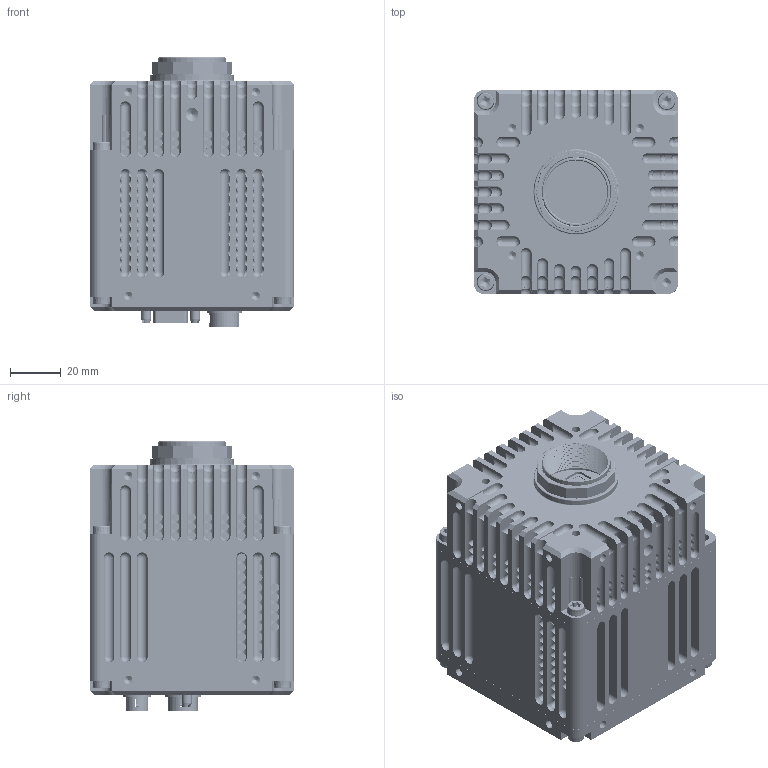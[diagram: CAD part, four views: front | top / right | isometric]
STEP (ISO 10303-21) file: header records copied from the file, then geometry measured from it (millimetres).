
FILE_DESCRIPTION (( 'STEP AP214' ), '1' );
FILE_NAME ('Goldeye CL-034 XSWIR_2022-10-06.STEP', '2022-10-06T13:32:44', ( '' ), ( '' ), 'SwSTEP 2.0', 'SolidWorks 2021', '' );
FILE_SCHEMA (( 'AUTOMOTIVE_DESIGN' ));
Length unit declared in the file: millimetre
Products named in the file (1): Goldeye CL-034 XSWIR_2022-10-06
Bounding box: 80.01 x 80 x 105.6 mm (x, y, z)
Surface area: 131711.4 mm2 (no closed solid volume)
Topology: 0 solids, 51 shells, 4309 faces, 11627 edges, 7179 vertices
Faces by surface type: cylinder 1935, plane 1420, bspline 377, cone 342, sphere 201, torus 34
Entity records: 198196 total; most frequent: CARTESIAN_POINT 44643, ORIENTED_EDGE 22057, DIRECTION 21501, EDGE_CURVE 11285, AXIS2_PLACEMENT_3D 7753, VERTEX_POINT 7157, LINE 5995, VECTOR 5995
